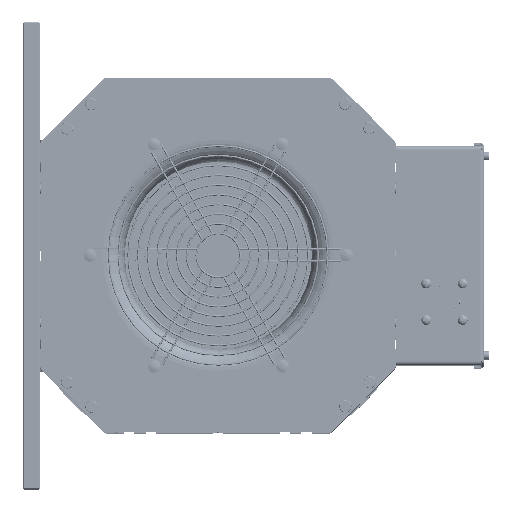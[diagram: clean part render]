
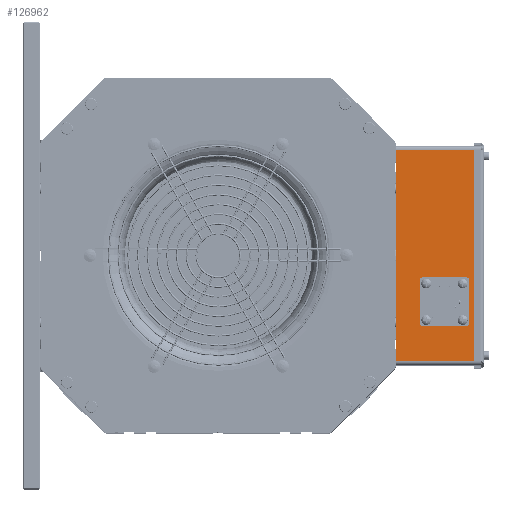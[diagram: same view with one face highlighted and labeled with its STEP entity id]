
A CAD part, top view. The second image highlights one B-rep face of the part: STEP entity #126962.
In plain terms, the highlighted planar face has unit normal (0, 0, 1) as drawn and (-1, 0, 0) by its records, which use the part's own axes.
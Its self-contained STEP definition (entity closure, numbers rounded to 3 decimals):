
#124643=DIRECTION('',(0.,-1.,0.));
#124644=VECTOR('',#124643,70.);
#124645=CARTESIAN_POINT('',(-100.,70.,-87.));
#124646=LINE('',#124645,#124644);
#124695=DIRECTION('',(0.,1.,0.));
#124696=VECTOR('',#124695,70.);
#124697=CARTESIAN_POINT('',(-100.,0.,87.));
#124698=LINE('',#124697,#124696);
#124703=DIRECTION('',(0.,0.,-1.));
#124704=VECTOR('',#124703,174.);
#124705=CARTESIAN_POINT('',(-100.,0.,87.));
#124706=LINE('',#124705,#124704);
#124707=CARTESIAN_POINT('',(-100.,30.,-38.));
#124708=DIRECTION('',(-1.,0.,0.));
#124709=DIRECTION('',(0.,1.,0.));
#124710=AXIS2_PLACEMENT_3D('',#124707,#124708,#124709);
#124712=CARTESIAN_POINT('',(-100.,30.,-38.));
#124713=DIRECTION('',(-1.,0.,0.));
#124714=DIRECTION('',(0.,-1.,0.));
#124715=AXIS2_PLACEMENT_3D('',#124712,#124713,#124714);
#124717=CARTESIAN_POINT('',(-100.,45.,-53.));
#124718=DIRECTION('',(-1.,0.,0.));
#124719=DIRECTION('',(0.,1.,0.));
#124720=AXIS2_PLACEMENT_3D('',#124717,#124718,#124719);
#124722=CARTESIAN_POINT('',(-100.,45.,-53.));
#124723=DIRECTION('',(-1.,0.,0.));
#124724=DIRECTION('',(0.,-1.,0.));
#124725=AXIS2_PLACEMENT_3D('',#124722,#124723,#124724);
#124727=CARTESIAN_POINT('',(-100.,15.,-53.));
#124728=DIRECTION('',(-1.,0.,0.));
#124729=DIRECTION('',(0.,0.,-1.));
#124730=AXIS2_PLACEMENT_3D('',#124727,#124728,#124729);
#124732=CARTESIAN_POINT('',(-100.,15.,-53.));
#124733=DIRECTION('',(-1.,0.,0.));
#124734=DIRECTION('',(0.,0.,1.));
#124735=AXIS2_PLACEMENT_3D('',#124732,#124733,#124734);
#124737=CARTESIAN_POINT('',(-100.,15.,-23.));
#124738=DIRECTION('',(-1.,0.,0.));
#124739=DIRECTION('',(0.,-1.,0.));
#124740=AXIS2_PLACEMENT_3D('',#124737,#124738,#124739);
#124742=CARTESIAN_POINT('',(-100.,15.,-23.));
#124743=DIRECTION('',(-1.,0.,0.));
#124744=DIRECTION('',(0.,1.,0.));
#124745=AXIS2_PLACEMENT_3D('',#124742,#124743,#124744);
#124747=CARTESIAN_POINT('',(-100.,45.,-23.));
#124748=DIRECTION('',(-1.,0.,0.));
#124749=DIRECTION('',(0.,0.,1.));
#124750=AXIS2_PLACEMENT_3D('',#124747,#124748,#124749);
#124752=CARTESIAN_POINT('',(-100.,45.,-23.));
#124753=DIRECTION('',(-1.,0.,0.));
#124754=DIRECTION('',(0.,0.,-1.));
#124755=AXIS2_PLACEMENT_3D('',#124752,#124753,#124754);
#124789=DIRECTION('',(0.,0.,-1.));
#124790=VECTOR('',#124789,174.);
#124791=CARTESIAN_POINT('',(-100.,70.,87.));
#124792=LINE('',#124791,#124790);
#126240=CARTESIAN_POINT('',(-100.,0.,-87.));
#126242=VERTEX_POINT('',#126240);
#126243=CARTESIAN_POINT('',(-100.,0.,87.));
#126244=VERTEX_POINT('',#126243);
#126297=CARTESIAN_POINT('',(-100.,70.,-87.));
#126298=VERTEX_POINT('',#126297);
#126317=CARTESIAN_POINT('',(-100.,70.,87.));
#126318=VERTEX_POINT('',#126317);
#126319=CARTESIAN_POINT('',(-100.,46.,-38.));
#126320=CARTESIAN_POINT('',(-100.,14.,-38.));
#126321=VERTEX_POINT('',#126319);
#126322=VERTEX_POINT('',#126320);
#126323=CARTESIAN_POINT('',(-100.,46.75,-53.));
#126324=CARTESIAN_POINT('',(-100.,43.25,-53.));
#126325=VERTEX_POINT('',#126323);
#126326=VERTEX_POINT('',#126324);
#126327=CARTESIAN_POINT('',(-100.,15.,-54.75));
#126328=CARTESIAN_POINT('',(-100.,15.,-51.25));
#126329=VERTEX_POINT('',#126327);
#126330=VERTEX_POINT('',#126328);
#126331=CARTESIAN_POINT('',(-100.,13.25,-23.));
#126332=CARTESIAN_POINT('',(-100.,16.75,-23.));
#126333=VERTEX_POINT('',#126331);
#126334=VERTEX_POINT('',#126332);
#126335=CARTESIAN_POINT('',(-100.,45.,-21.25));
#126336=CARTESIAN_POINT('',(-100.,45.,-24.75));
#126337=VERTEX_POINT('',#126335);
#126338=VERTEX_POINT('',#126336);
#126920=CARTESIAN_POINT('',(-100.,0.,-90.));
#126921=DIRECTION('',(-1.,0.,0.));
#126922=DIRECTION('',(0.,0.,1.));
#126923=AXIS2_PLACEMENT_3D('',#126920,#126921,#126922);
#126924=PLANE('',#126923);
#126925=ORIENTED_EDGE('',*,*,#126819,.F.);
#126927=ORIENTED_EDGE('',*,*,#126926,.F.);
#126928=ORIENTED_EDGE('',*,*,#126912,.F.);
#126929=ORIENTED_EDGE('',*,*,#126742,.T.);
#126930=EDGE_LOOP('',(#126925,#126927,#126928,#126929));
#126931=FACE_OUTER_BOUND('',#126930,.F.);
#126933=ORIENTED_EDGE('',*,*,#126932,.T.);
#126935=ORIENTED_EDGE('',*,*,#126934,.T.);
#126936=EDGE_LOOP('',(#126933,#126935));
#126937=FACE_BOUND('',#126936,.F.);
#126939=ORIENTED_EDGE('',*,*,#126938,.T.);
#126941=ORIENTED_EDGE('',*,*,#126940,.T.);
#126942=EDGE_LOOP('',(#126939,#126941));
#126943=FACE_BOUND('',#126942,.F.);
#126945=ORIENTED_EDGE('',*,*,#126944,.T.);
#126947=ORIENTED_EDGE('',*,*,#126946,.T.);
#126948=EDGE_LOOP('',(#126945,#126947));
#126949=FACE_BOUND('',#126948,.F.);
#126951=ORIENTED_EDGE('',*,*,#126950,.T.);
#126953=ORIENTED_EDGE('',*,*,#126952,.T.);
#126954=EDGE_LOOP('',(#126951,#126953));
#126955=FACE_BOUND('',#126954,.F.);
#126957=ORIENTED_EDGE('',*,*,#126956,.T.);
#126959=ORIENTED_EDGE('',*,*,#126958,.T.);
#126960=EDGE_LOOP('',(#126957,#126959));
#126961=FACE_BOUND('',#126960,.F.);
#126962=ADVANCED_FACE('',(#126931,#126937,#126943,#126949,#126955,#126961),
#126924,.T.);
#124711=CIRCLE('',#124710,16.);
#124716=CIRCLE('',#124715,16.);
#124721=CIRCLE('',#124720,1.75);
#124726=CIRCLE('',#124725,1.75);
#124731=CIRCLE('',#124730,1.75);
#124736=CIRCLE('',#124735,1.75);
#124741=CIRCLE('',#124740,1.75);
#124746=CIRCLE('',#124745,1.75);
#124751=CIRCLE('',#124750,1.75);
#124756=CIRCLE('',#124755,1.75);
#126742=EDGE_CURVE('',#126244,#126242,#124706,.T.);
#126819=EDGE_CURVE('',#126298,#126242,#124646,.T.);
#126912=EDGE_CURVE('',#126244,#126318,#124698,.T.);
#126926=EDGE_CURVE('',#126318,#126298,#124792,.T.);
#126932=EDGE_CURVE('',#126321,#126322,#124711,.T.);
#126934=EDGE_CURVE('',#126322,#126321,#124716,.T.);
#126938=EDGE_CURVE('',#126325,#126326,#124721,.T.);
#126940=EDGE_CURVE('',#126326,#126325,#124726,.T.);
#126944=EDGE_CURVE('',#126329,#126330,#124731,.T.);
#126946=EDGE_CURVE('',#126330,#126329,#124736,.T.);
#126950=EDGE_CURVE('',#126333,#126334,#124741,.T.);
#126952=EDGE_CURVE('',#126334,#126333,#124746,.T.);
#126956=EDGE_CURVE('',#126337,#126338,#124751,.T.);
#126958=EDGE_CURVE('',#126338,#126337,#124756,.T.);
